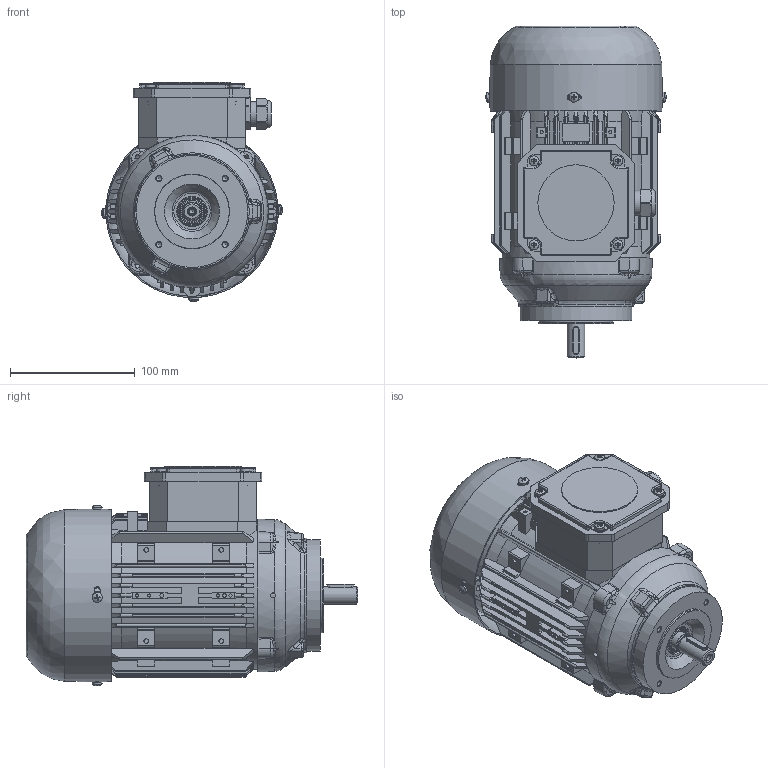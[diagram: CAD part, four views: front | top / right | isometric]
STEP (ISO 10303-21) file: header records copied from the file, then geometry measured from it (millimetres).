
FILE_DESCRIPTION(/* description */ (''),/* implementation_level */ '2;1');
FILE_NAME(/* name */ 'OUTLOOK VIEW QH71 FC B14 - REDUCED FT75 SPL.stp',/* time_stamp */ '2021-09-21T11:38:54+03:00',/* author */ (''),/* organization */ (''),/* preprocessor_version */ 'ST-DEVELOPER v16',/* originating_system */ 'SIEMENS PLM Software NX 11.0',/* authorisation */ '');
FILE_SCHEMA (('AUTOMOTIVE_DESIGN { 1 0 10303 214 3 1 1 1 }'));
Products named in the file (1): 260652D491E0rvli
Bounding box: 144.59 x 265.66 x 175.79 mm (x, y, z)
Volume: 668549.1 mm3; surface area: 427154.6 mm2
Topology: 48 solids, 54 shells, 2932 faces, 7779 edges, 4929 vertices
Faces by surface type: plane 1209, cylinder 801, bspline 395, cone 299, torus 143, sphere 62, extrusion 23
Full cylindrical faces by diameter (mm): 1.7 x2, 2.5 x12, 3 x4, 3.15 x1, 3.3 x9, 3.65 x12, 3.7 x3, 4 x9, 4.2 x9, 4.5 x4, 4.6 x2, 4.65 x4, 4.8 x4, 5 x4, 5.1 x1, 5.3 x1, 5.5 x1, 8 x9, 13 x1, 13.4 x1, 14 x2, 14.3 x1, 14.4 x2, 15 x6, 15.2 x1, 15.5 x1, 16.9 x1, 18 x2, 18.5 x1, 19 x1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
Entity records: 102003 total; most frequent: CARTESIAN_POINT 32941, ORIENTED_EDGE 14356, DIRECTION 13132, EDGE_CURVE 7178, AXIS2_PLACEMENT_3D 4991, VERTEX_POINT 4811, EDGE_LOOP 3551, VECTOR 3150
